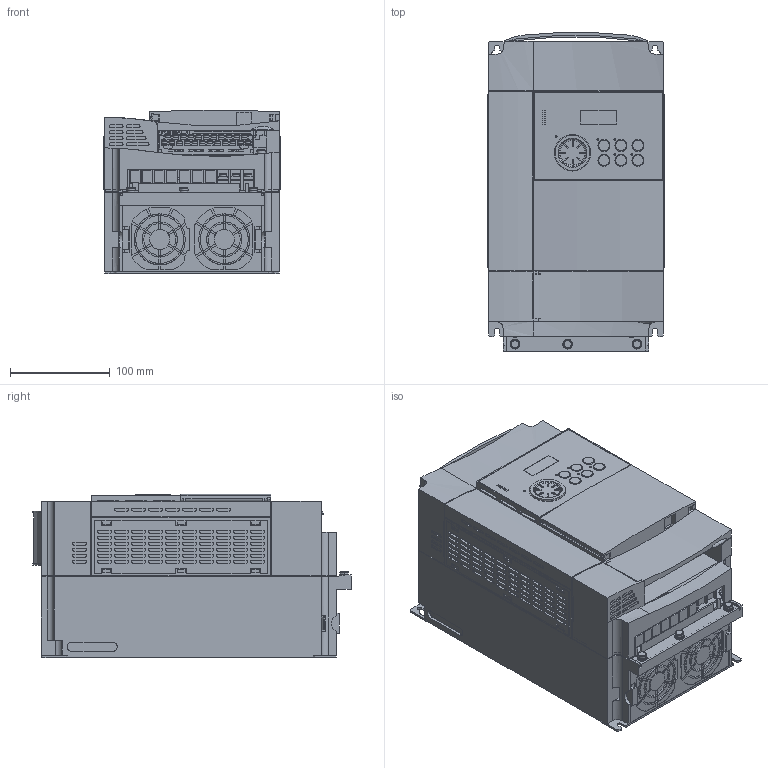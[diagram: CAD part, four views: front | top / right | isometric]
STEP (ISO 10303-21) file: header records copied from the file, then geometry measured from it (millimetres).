
FILE_DESCRIPTION((''),'2;1');
FILE_NAME('VFAS3J_J3_ASM','2019-09-10T09:48:24',('sesa57331'),('Schneider-Electric'),'CREO PARAMETRIC BY PTC INC, 2018300','CREO PARAMETRIC BY PTC INC, 2018300','');
FILE_SCHEMA(('CONFIG_CONTROL_DESIGN'));
Products named in the file (17): VFAS3J_DRIVE_J3; VFAS3J_TOP_COVER_J3-5; VFAS3J_DISPLAY; VFAS3J_CTR_TERM; VFAS3J_CTR_TERM_SHORT_BAR; VFAS3J_CTR_TERM_SCREW_M3-1; VFAS3J_CTR_TERM_SCREW_M3-2; VFAS3J_CTR_TERM_FL_COVER; VFAS3J_CTR_TERM_ASM; VFAS3J_DISPLAY_COVER; TERM_12P7MM_M5_SHORT_BAR; TERM_12P7MM_M5; SCREW_M5X12; VFAS3J_POWER_TERM_COVER_J3; VFAS3J_POWER_TERM_TRAP; VFAS3J_POWER_TERM_COVER_J3_ASM; VFAS3J_J3_ASM
Assembly tree (53 placements, depth 3):
  VFAS3J_J3_ASM
    VFAS3J_DRIVE_J3
    VFAS3J_TOP_COVER_J3-5
    VFAS3J_DISPLAY
    VFAS3J_CTR_TERM_ASM
      VFAS3J_CTR_TERM
      VFAS3J_CTR_TERM_SHORT_BAR  x2
      VFAS3J_CTR_TERM_SCREW_M3-1  x23
      VFAS3J_CTR_TERM_SCREW_M3-2  x3
      VFAS3J_CTR_TERM_FL_COVER
    VFAS3J_DISPLAY_COVER
    TERM_12P7MM_M5_SHORT_BAR
    TERM_12P7MM_M5  x10
    SCREW_M5X12  x4
    VFAS3J_POWER_TERM_COVER_J3_ASM
      VFAS3J_POWER_TERM_COVER_J3
      VFAS3J_POWER_TERM_TRAP
Bounding box: 177 x 318.69 x 163.78 mm (x, y, z)
Volume: 4402510.5 mm3; surface area: 796787.9 mm2
Topology: 51 solids, 54 shells, 5183 faces, 13916 edges, 9165 vertices
Faces by surface type: plane 3991, cylinder 1062, torus 108, cone 12, bspline 6, sphere 4
Entity records: 147902 total; most frequent: CARTESIAN_POINT 26707, ORIENTED_EDGE 25580, DIRECTION 24265, EDGE_CURVE 12792, VECTOR 10531, LINE 10531, VERTEX_POINT 8443, AXIS2_PLACEMENT_3D 6867
